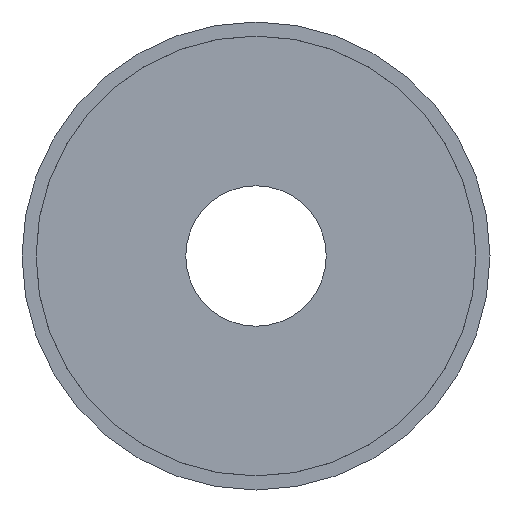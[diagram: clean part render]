
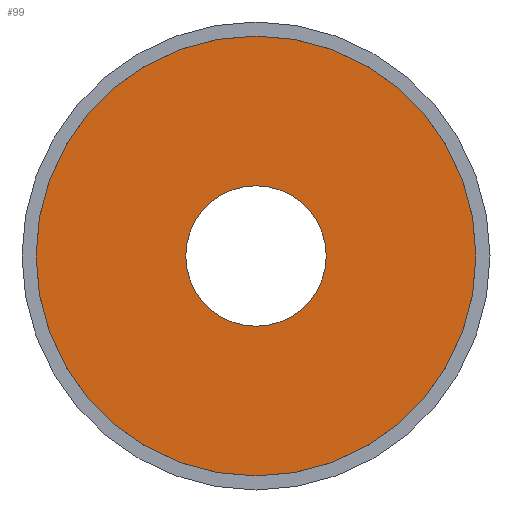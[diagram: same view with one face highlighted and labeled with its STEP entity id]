
A CAD part, front view. The second image highlights one B-rep face of the part: STEP entity #99.
In plain terms, the highlighted planar face has unit normal (0, -1, 0).
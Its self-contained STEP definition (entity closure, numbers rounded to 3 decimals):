
#18 = VERTEX_POINT ( 'NONE', #68 ) ;
#68 = CARTESIAN_POINT ( 'NONE',  ( 0., -25., -46.99 ) ) ;
#84 = ORIENTED_EDGE ( 'NONE', *, *, #620, .T. ) ;
#94 = EDGE_LOOP ( 'NONE', ( #298, #84 ) ) ;
#99 = ADVANCED_FACE ( 'NONE', ( #328, #225 ), #525, .T. ) ;
#103 = VERTEX_POINT ( 'NONE', #768 ) ;
#127 = CARTESIAN_POINT ( 'NONE',  ( 0., -25., 0. ) ) ;
#137 = ORIENTED_EDGE ( 'NONE', *, *, #169, .T. ) ;
#169 = EDGE_CURVE ( 'NONE', #18, #103, #440, .T. ) ;
#174 = AXIS2_PLACEMENT_3D ( 'NONE', #836, #254, #182 ) ;
#182 = DIRECTION ( 'NONE',  ( 0., 0., -1. ) ) ;
#183 = CARTESIAN_POINT ( 'NONE',  ( 0., -25., 0. ) ) ;
#216 = CARTESIAN_POINT ( 'NONE',  ( 0., -25., 0. ) ) ;
#225 = FACE_OUTER_BOUND ( 'NONE', #461, .T. ) ;
#235 = VERTEX_POINT ( 'NONE', #304 ) ;
#249 = VERTEX_POINT ( 'NONE', #321 ) ;
#253 = AXIS2_PLACEMENT_3D ( 'NONE', #183, #482, #769 ) ;
#254 = DIRECTION ( 'NONE',  ( 0., -1., 0. ) ) ;
#296 = DIRECTION ( 'NONE',  ( 0., 0., -1. ) ) ;
#298 = ORIENTED_EDGE ( 'NONE', *, *, #537, .T. ) ;
#304 = CARTESIAN_POINT ( 'NONE',  ( 0., -25., 15. ) ) ;
#321 = CARTESIAN_POINT ( 'NONE',  ( 0., -25., -15. ) ) ;
#326 = ORIENTED_EDGE ( 'NONE', *, *, #570, .T. ) ;
#328 = FACE_BOUND ( 'NONE', #94, .T. ) ;
#373 = DIRECTION ( 'NONE',  ( 0., 0., 1. ) ) ;
#440 = CIRCLE ( 'NONE', #849, 46.99 ) ;
#461 = EDGE_LOOP ( 'NONE', ( #137, #326 ) ) ;
#482 = DIRECTION ( 'NONE',  ( 0., 1., 0. ) ) ;
#522 = AXIS2_PLACEMENT_3D ( 'NONE', #654, #864, #373 ) ;
#525 = PLANE ( 'NONE',  #174 ) ;
#537 = EDGE_CURVE ( 'NONE', #235, #249, #611, .T. ) ;
#567 = DIRECTION ( 'NONE',  ( 0., 0., -1. ) ) ;
#570 = EDGE_CURVE ( 'NONE', #103, #18, #941, .T. ) ;
#579 = DIRECTION ( 'NONE',  ( 0., -1., 0. ) ) ;
#611 = CIRCLE ( 'NONE', #253, 15. ) ;
#620 = EDGE_CURVE ( 'NONE', #249, #235, #625, .T. ) ;
#625 = CIRCLE ( 'NONE', #522, 15. ) ;
#639 = DIRECTION ( 'NONE',  ( 0., -1., 0. ) ) ;
#654 = CARTESIAN_POINT ( 'NONE',  ( 0., -25., 0. ) ) ;
#768 = CARTESIAN_POINT ( 'NONE',  ( 0., -25., 46.99 ) ) ;
#769 = DIRECTION ( 'NONE',  ( 0., 0., 1. ) ) ;
#789 = AXIS2_PLACEMENT_3D ( 'NONE', #127, #579, #296 ) ;
#836 = CARTESIAN_POINT ( 'NONE',  ( -50., -25., 0. ) ) ;
#849 = AXIS2_PLACEMENT_3D ( 'NONE', #216, #639, #567 ) ;
#864 = DIRECTION ( 'NONE',  ( 0., 1., 0. ) ) ;
#941 = CIRCLE ( 'NONE', #789, 46.99 ) ;
